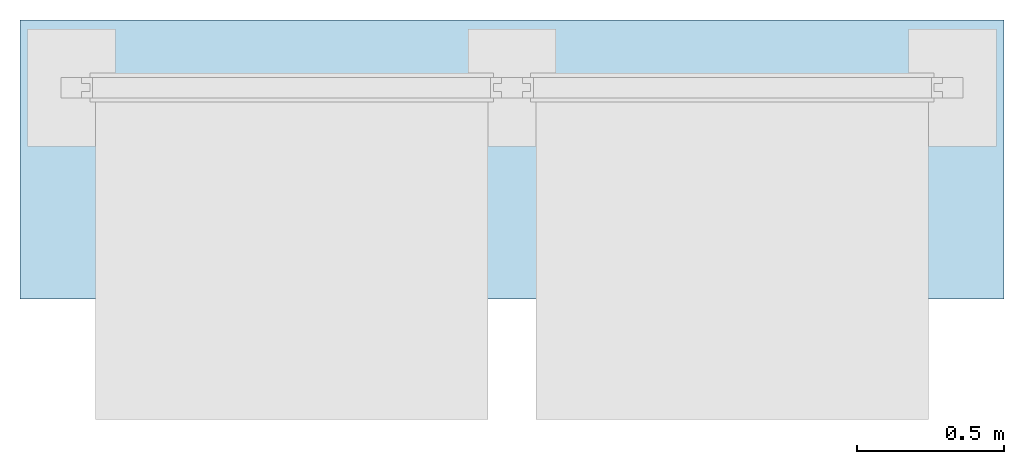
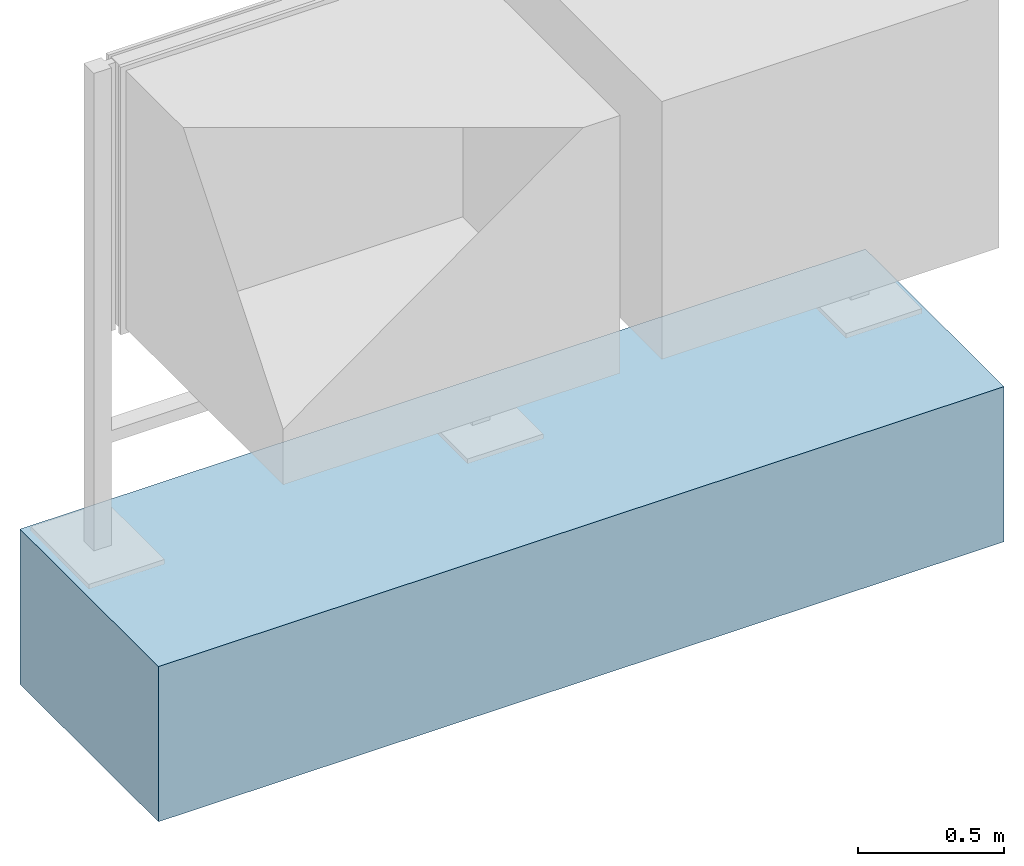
# One storey, incomplete: 1 slab.
"""IFC4 building model written with IfcOpenShell, lengths in metres."""

from ifc_helpers import new_model, entity, si_unit, converted_unit, direction, frame, frame_2d, origin, origin_2d_with_axis, place, context, subcontext, project, spatial, rectangle, extrude, material, type_object, element, save


model = new_model("IFC4")

# Units and contexts
model_context = context("Model", 3, precision=1e-05, world=origin(), true_north=direction((6.123031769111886e-17, 1.0)))
body_context = subcontext(model_context, "Body", "Model", "MODEL_VIEW")
ifc_project = project(units=[si_unit("LENGTHUNIT", "METRE"), converted_unit("PLANEANGLEUNIT", "DEGREE", entity("IfcPlaneAngleMeasure", 0.017453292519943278), si_unit("PLANEANGLEUNIT", "RADIAN"), dimensions=[0, 0, 0, 0, 0, 0, 0]), si_unit("AREAUNIT", "SQUARE_METRE")], contexts=[model_context])

# Site, building, storey
site_placement = place(None, origin())
site = spatial("IfcSite", under=ifc_project, at=site_placement, Name="Default", CompositionType="ELEMENT")
building_placement = place(site_placement, origin())
building = spatial("IfcBuilding", under=site, at=building_placement, CompositionType="ELEMENT")
storey_placement = place(building_placement, origin())
storey = spatial("IfcBuildingStorey", under=building, at=storey_placement, Name="Ebene 0", CompositionType="ELEMENT", Elevation=0.0)

# Slab
ifc_material = material(Name="DB_Magerbeton", Category="DB_Beton")
slab_type = type_object("IfcSlabType", Name="DB_Vitrine_Fundament_zweifeldrig_Windlastzone_1_2:DB_Vitrine_Fundament_zweifeldrig_Windlastzone_1_2", PredefinedType="BASESLAB", material=ifc_material)
slab_placement = place(storey_placement, origin())
element("IfcSlab", 1, at=slab_placement, inside=storey, type_object=slab_type, Name="DB_Vitrine_Fundament_zweifeldrig_Windlastzone_1_2:DB_Vitrine_Fundament_zweifeldrig_Windlastzone_1_2", ObjectType="DB_Vitrine_Fundament_zweifeldrig_Windlastzone_1_2:DB_Vitrine_Fundament_zweifeldrig_Windlastzone_1_2", PredefinedType="BASESLAB", context=body_context, shape_type="SweptSolid", body=[
    extrude(rectangle(XDim=0.9500000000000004, YDim=3.3499999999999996, at=origin_2d_with_axis()), frame((1.5000000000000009, -0.24499999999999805, 0.0), z_axis=(0.0, 0.0, 1.0), x_axis=(0.0, -1.0, 0.0)), (0.0, 0.0, 1.0), 0.04999999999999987),
    extrude(rectangle(XDim=3.3499999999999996, YDim=0.9499999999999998, at=frame_2d((0.0, 2.7755575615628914e-17), x_axis=(1.0, 0.0))), frame((1.5000000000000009, -0.24499999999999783, 0.04999999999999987), z_axis=(0.0, 0.0, 1.0), x_axis=(-1.0, 0.0, 0.0)), (0.0, 0.0, 1.0), 0.5999999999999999),
])

save(model, "model.ifc")
